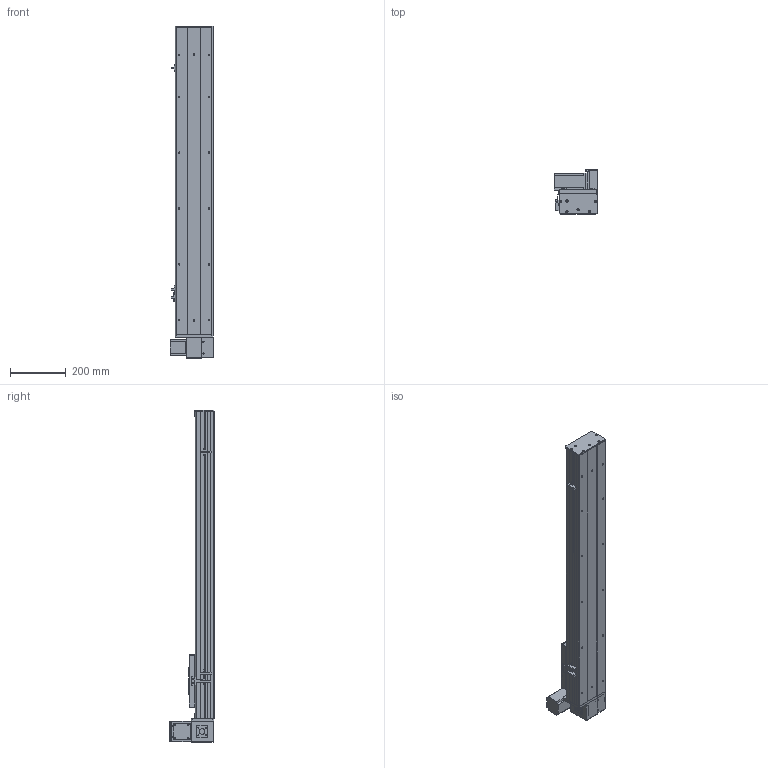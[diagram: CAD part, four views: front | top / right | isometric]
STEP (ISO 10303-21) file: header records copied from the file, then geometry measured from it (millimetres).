
FILE_DESCRIPTION (( 'STEP AP203' ), '1' );
FILE_NAME ('Y135CB-D90-S800-UL-P400W.STEP', '2020-02-18T07:16:02', ( '微软用户' ), ( '微软中国' ), 'SwSTEP 2.0', 'SolidWorks 2017', '' );
FILE_SCHEMA (( 'CONFIG_CONTROL_DESIGN' ));
Length unit declared in the file: millimetre
Products named in the file (18): Y10B-耜蚾蟀諉啣----; san松下电机400不带刹车----; 00B-俋欶BM--; 5CB --掛极耜裔啣-; Y10B--々湍喘謫眊--666; C-詩湍揤踡え-陔; Y135CB-耜裔; Y135CB-D90-S800-UL-P400W; 135CB--詩湍-CE; 135CB---遴掛极.-; Y100-135俋离換覜ん--; 35CB---喘謫眊楊擘啣; Y135C-陔俋离換覜結え-; 0B-埴倛裔啣; 5C--俋欶; 0B-源倛裔啣; C-雄赽釱--; 0B-萇儂楊擘啣
Assembly tree (21 placements, depth 2):
  Y135CB-D90-S800-UL-P400W
    Y135CB-耜裔
    135CB---遴掛极.-
    35CB---喘謫眊楊擘啣
    0B-埴倛裔啣
    0B-源倛裔啣
    0B-萇儂楊擘啣
    san松下电机400不带刹车----
    5CB --掛极耜裔啣-  x2
    C-詩湍揤踡え-陔  x2
    135CB--詩湍-CE
    Y100-135俋离換覜ん--  x3
    Y135C-陔俋离換覜結え-
    5C--俋欶
    C-雄赽釱--
    Y10B-耜蚾蟀諉啣----
    00B-俋欶BM--
    Y10B--々湍喘謫眊--666
Bounding box: 157 x 158.7 x 1188 mm (x, y, z)
Volume: 3867070.4 mm3; surface area: 1507715.5 mm2
Topology: 21 solids, 21 shells, 941 faces, 2509 edges, 1662 vertices
Faces by surface type: cylinder 469, plane 456, cone 16
Entity records: 29147 total; most frequent: DIRECTION 4841, CARTESIAN_POINT 4768, ORIENTED_EDGE 4494, EDGE_CURVE 2247, AXIS2_PLACEMENT_3D 1763, VERTEX_POINT 1490, VECTOR 1315, LINE 1315
